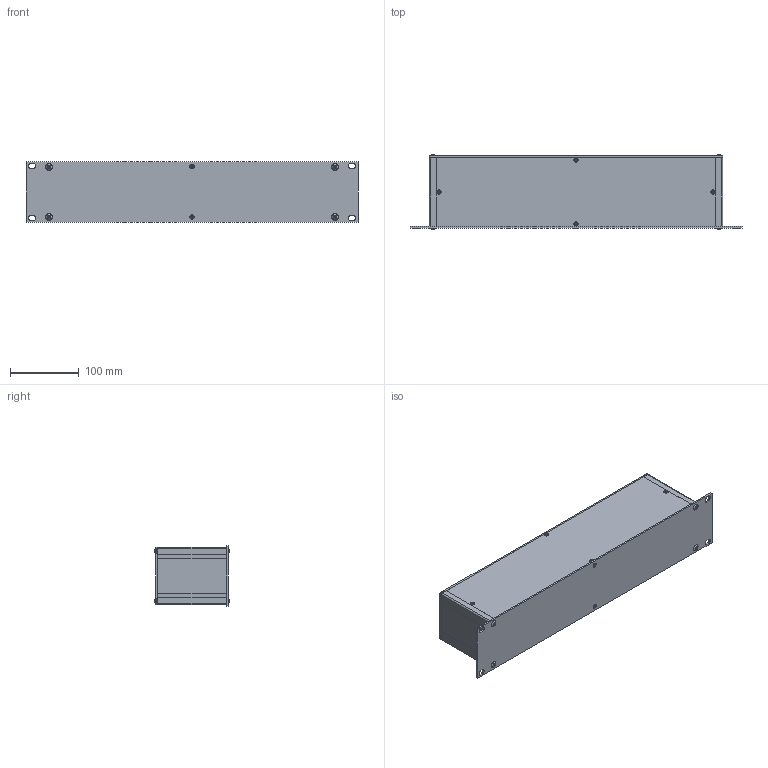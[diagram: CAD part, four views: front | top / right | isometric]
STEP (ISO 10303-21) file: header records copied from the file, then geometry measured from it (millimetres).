
FILE_DESCRIPTION(/* description */ (''),/* implementation_level */ '2;1');
FILE_NAME(/* name */ '//diskstation/Kunden/Gehäuse/Gehäuse/2HE/step/Zoll 2HE Rack Gehäuse Tiefe-100.step',/* time_stamp */ '2022-02-17T15:39:40+01:00',/* author */ (''),/* organization */ (''),/* preprocessor_version */ 'ST-DEVELOPER v18.1',/* originating_system */ 'Autodesk Translation Framework v10.10.0.1391',/* authorisation */ '');
FILE_SCHEMA (('AUTOMOTIVE_DESIGN { 1 0 10303 214 3 1 1 }'));
Length unit declared in the file: millimetre
Products named in the file (28): 2HE Gehäuse mit parametern; Gehäuse; Gehäuseprofil 1 unten links; Gehäuseprofil 2 oben rechts; Gehäuseprofil 1 unten rechts; Gehäuseprofil 2 oben links; Rückplatte; Deckel; Seitenteil links; Seitenteil rechts; Bodenplatte; Montageklotz Front/Deckel; Montageklotz Front/Boden; Montageklotz Rück/Deckel; Montageklotz Rück/Boden; Gewindestreifen; Frontplatte; Schrauben M5; Schraube Front; Schraube Front (1); Schraube Front (2); Schraube Front (3); Schraube Rück (1); Schraube Rück; Schraube Rück (2); Schraube Rück (3); Schrauben M3; HI_Senkschraube DIN 965 A v2 M3x5 24677.030.005(High)
Assembly tree (37 placements, depth 3):
  2HE Gehäuse mit parametern
    Gehäuse
      Gehäuseprofil 1 unten links
      Gehäuseprofil 2 oben rechts
      Gehäuseprofil 1 unten rechts
      Gehäuseprofil 2 oben links
      Rückplatte
      Deckel
      Seitenteil links
      Seitenteil rechts
      Bodenplatte
      Montageklotz Front/Deckel
      Montageklotz Front/Boden
      Montageklotz Rück/Deckel
      Montageklotz Rück/Boden
      Gewindestreifen  x2
    Frontplatte
    Schrauben M5
      Schraube Front
      Schraube Front (1)
      Schraube Front (2)
      Schraube Front (3)
      Schraube Rück (1)
      Schraube Rück
      Schraube Rück (2)
      Schraube Rück (3)
    Schrauben M3
      HI_Senkschraube DIN 965 A v2 M3x5 24677.030.005(High)  x10
Bounding box: 483 x 108.2 x 88.1 mm (x, y, z)
Volume: 451557.7 mm3; surface area: 401526.1 mm2
Topology: 34 solids, 34 shells, 802 faces, 1920 edges, 1186 vertices
Faces by surface type: plane 346, cylinder 276, cone 164, torus 8, bspline 8
Full cylindrical faces by diameter (mm): 2.529 x30, 3 x10, 3.2 x10, 4.234 x40, 5 x8, 5.2 x8, 5.3 x4, 5.6 x10, 9.5 x8
Entity records: 15811 total; most frequent: CARTESIAN_POINT 2922, DIRECTION 2634, ORIENTED_EDGE 2334, EDGE_CURVE 1167, AXIS2_PLACEMENT_3D 978, VERTEX_POINT 726, LINE 678, VECTOR 678
